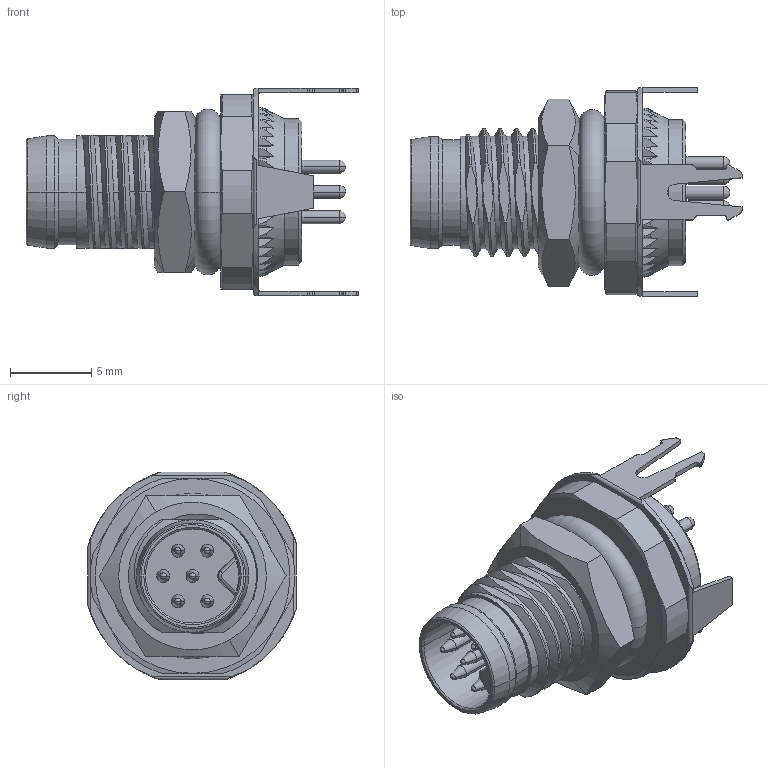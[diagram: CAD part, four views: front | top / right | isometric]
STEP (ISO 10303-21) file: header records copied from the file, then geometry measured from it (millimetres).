
FILE_DESCRIPTION((''),'2;1');
FILE_NAME('M8AS-06PMMP-SF8001_SW0001','2023-02-23T',('K190067'),(''),'PRO/ENGINEER BY PARAMETRIC TECHNOLOGY CORPORATION, 2013050','PRO/ENGINEER BY PARAMETRIC TECHNOLOGY CORPORATION, 2013050','');
FILE_SCHEMA(('CONFIG_CONTROL_DESIGN'));
Length unit declared in the file: millimetre
Products named in the file (1): M8AS-06PMMP-SF8001_SW0001
Bounding box: 20.45 x 12.87 x 12.8 mm (x, y, z)
Volume: 1001.1 mm3; surface area: 1407.4 mm2
Topology: 1 solids, 1 shells, 524 faces, 1469 edges, 942 vertices
Faces by surface type: plane 209, cylinder 175, torus 49, cone 41, bspline 26, sphere 24
Entity records: 21778 total; most frequent: CARTESIAN_POINT 7742, ORIENTED_EDGE 2890, DIRECTION 2538, EDGE_CURVE 1445, VERTEX_POINT 942, AXIS2_PLACEMENT_3D 928, VECTOR 682, LINE 682
